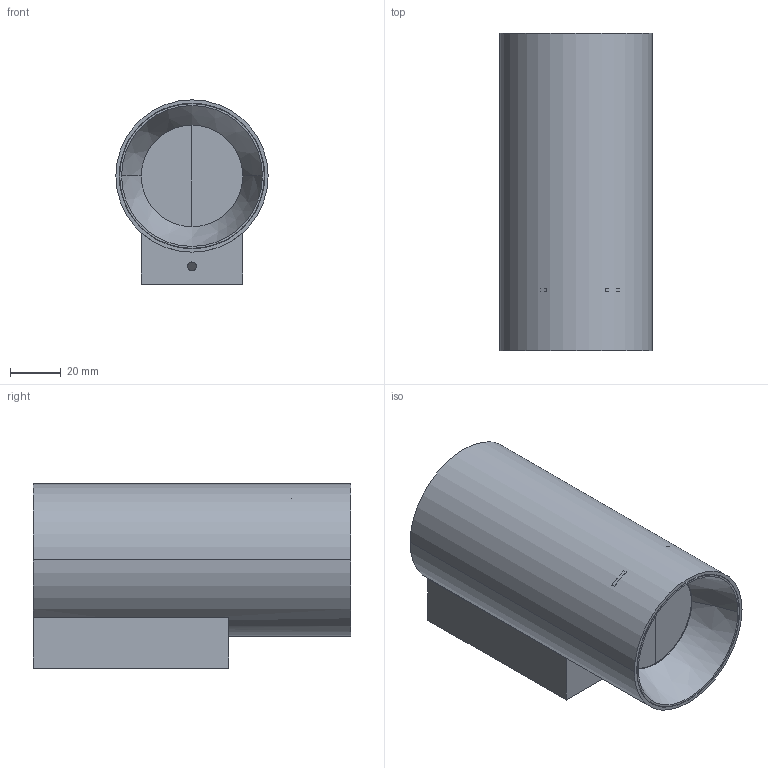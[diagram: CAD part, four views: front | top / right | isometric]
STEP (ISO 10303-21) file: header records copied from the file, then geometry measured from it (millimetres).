
FILE_DESCRIPTION(/* description */ (''),/* implementation_level */ '2;1');
FILE_NAME(/* name */ 'C:\Users\FrancoSartori\Documents\FARO\03_Completados\STAN\03_Publicación\43748_43749\43759.stp',/* time_stamp */ '2021-07-01T11:00:55+02:00',/* author */ ('FrancoSartori'),/* organization */ (''),/* preprocessor_version */ 'ST-DEVELOPER v18.1',/* originating_system */ 'AutoCAD Mechanical',/* authorisation */ '');
FILE_SCHEMA (('AUTOMOTIVE_DESIGN { 1 0 10303 214 3 1 1 }'));
Length unit declared in the file: millimetre
Products named in the file (2): Product; 43748_43749 - STAN-456972-_3D_
Assembly tree (1 placements, depth 2):
  Product
    43748_43749 - STAN-456972-_3D_
Bounding box: 60 x 125 x 72.63 mm (x, y, z)
Volume: 85221.6 mm3; surface area: 82331.6 mm2
Topology: 5 solids, 6 shells, 261 faces, 744 edges, 494 vertices
Faces by surface type: plane 121, cylinder 84, cone 40, torus 10, bspline 6
Entity records: 10120 total; most frequent: CARTESIAN_POINT 3336, ORIENTED_EDGE 1440, DIRECTION 1328, EDGE_CURVE 744, VERTEX_POINT 494, AXIS2_PLACEMENT_3D 480, LINE 368, VECTOR 368
